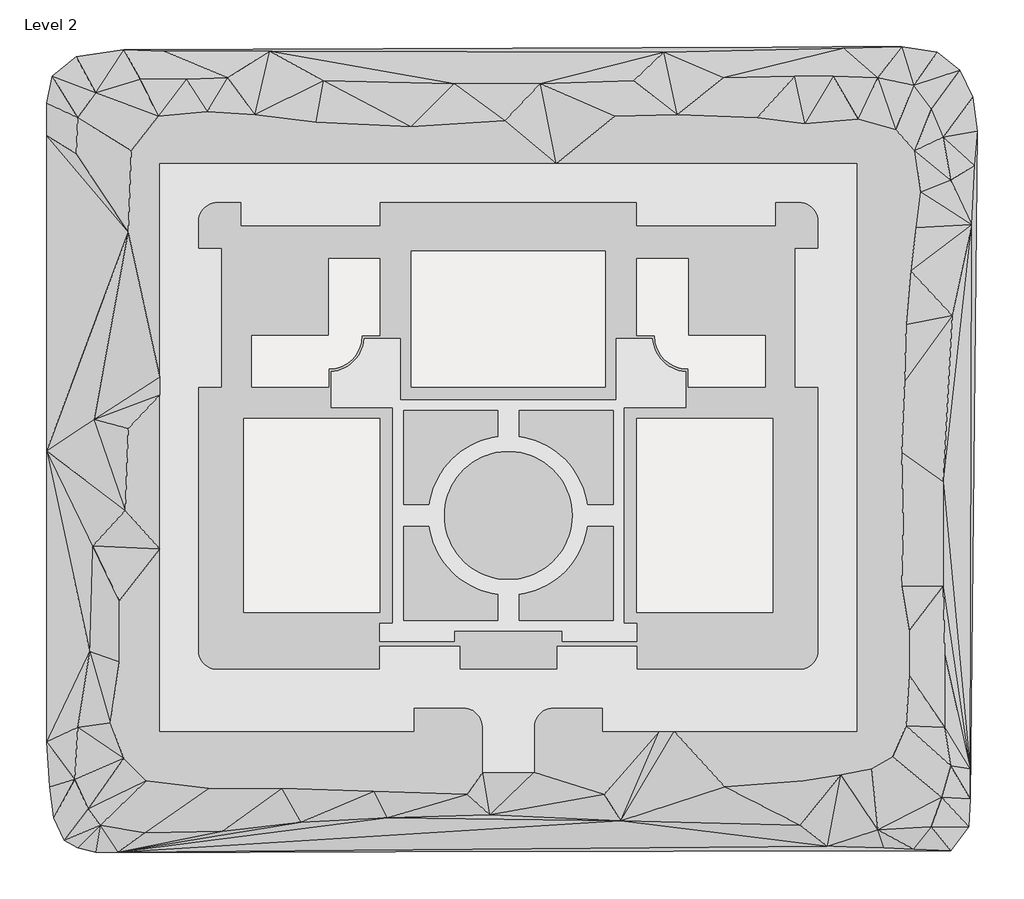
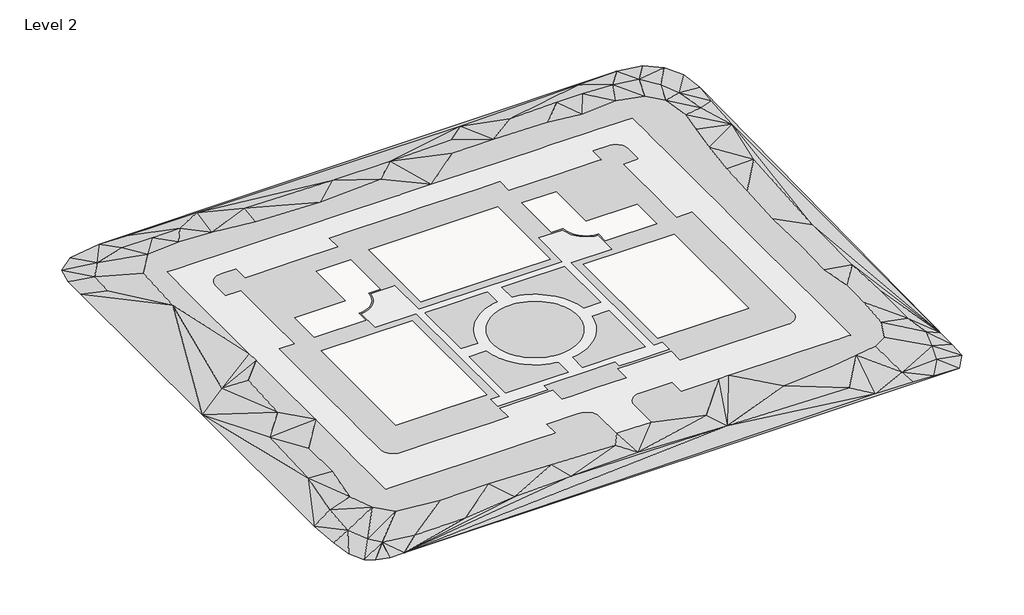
# One storey, part 2 of 2: 1 proxy.
"""IFC4 building model written with IfcOpenShell, lengths in millimetres."""

from ifc_helpers import new_model, si_unit, origin, place, context, project, spatial, triangles, element, save

model = new_model("IFC4")

# Units and contexts
model_context = context("Model", 3, world=origin())
ifc_project = project(units=[si_unit("LENGTHUNIT", "METRE", prefix="MILLI")], contexts=[model_context])

# Site, building, storey
site = spatial("IfcSite", under=ifc_project)
building = spatial("IfcBuilding", under=site)
storey = spatial("IfcBuildingStorey", under=building, Name="Level 2", Elevation=3047.9999999)

# Proxy
placement = place(None, origin())
element("IfcBuildingElementProxy", 1, Name="Building Element Proxy", at=placement, inside=storey, context=model_context, shape_type="Tessellation", body=[
    triangles([(-199970.6219238, -770.6450392, 0.0), (-199970.6219238, -75600.9481934, 0.0), (-199970.6219238, -144783.6834961, 0.0), (-199264.6743164, -155372.8790039, 0.0), (-198205.762207, -162785.3195801, 0.0), (-195734.9362793, -168079.917334, 0.0), (-192558.1813477, -169844.7770508, 0.0), (-188322.5143066, -170903.6891602, 0.0), (-183027.9165527, -170903.6891602, 0.0), (14637.0472687, -170550.7246582, 0.0), (18872.7247742, -164903.1624023, 0.0), (19225.6974152, -158196.6694336, 0.0), (20990.5629456, 288.2743554, 0.0), (19931.6438599, 8406.6566345, 0.0), (16754.8854401, 14760.1734741, 0.0), (11460.2888489, 18995.8509796, 0.0), (2988.9332565, 20407.7427063, 0.0), (-181616.0213379, 19701.7974243, 0.0), (-192911.1644531, 17936.9307312, 0.0), (-198558.726709, 13348.2805847, 0.0), (-199970.6219238, 6994.7637451, 0.0), (-96458.3541504, -141259.5265137, 3048.0), (-96504.8908447, -140608.8592529, 3048.0), (-96643.5521484, -139971.4376953, 3048.0), (-96871.5196289, -139360.2470947, 3048.0), (-97184.1424072, -138787.7145996, 3048.0), (-97575.0673828, -138265.4953125, 3048.0), (-98036.332251, -137804.2304443, 3048.0), (-98558.5515381, -137413.3147705, 3048.0), (-98978.0329102, -137184.2496826, 3048.0), (-99131.0840332, -137100.6826904, 3048.0), (-99742.2746338, -136872.7245117, 3048.0), (-100379.6961914, -136734.0539063, 3048.0), (-101030.3541504, -136687.5265137, 3048.0), (-101809.9809814, -136687.5265137, 3048.0), (-112765.1541504, -136687.5265137, 3048.0), (-112765.1541504, -142173.9265137, 3048.0), (-113948.1331055, -142173.9265137, 3048.0), (-118098.4844238, -142173.9265137, 3048.0), (-134914.7603027, -142173.9265137, 3048.0), (-141364.1619873, -142173.9265137, 3048.0), (-155924.3616211, -142173.9265137, 3048.0), (-161579.2164551, -142173.9265137, 3048.0), (-171062.6189941, -142173.9265137, 3048.0), (-173115.5541504, -142173.9265137, 3048.0), (-173115.5541504, -139265.5924072, 3048.0), (-173115.5541504, -133177.6942383, 3048.0), (-173115.5541504, -122301.5302002, 3048.0), (-173115.5541504, -118406.8004883, 3048.0), (-173115.5541504, -98940.6863525, 3048.0), (-173115.5541504, -96485.831543, 3048.0), (-173115.5541504, -78335.3859375, 3048.0), (-173115.5541504, -62355.6543457, 3048.0), (-173115.5541504, -58140.023291, 3048.0), (-173115.5541504, -19343.470459, 3048.0), (-173115.5541504, -16797.6432953, 3048.0), (-173115.5541504, -12340.9792786, 3048.0), (-173115.5541504, -7452.3218628, 3048.0), (-169916.8098633, -7452.3218628, 3048.0), (-163060.4655762, -7452.3218628, 3048.0), (-152868.4644287, -7452.3218628, 3048.0), (-142112.3953857, -7452.3218628, 3048.0), (-121728.1977539, -7452.3218628, 3048.0), (-112747.4808105, -7452.3218628, 3048.0), (-91818.4420166, -7452.3218628, 3048.0), (-90362.3541504, -7452.3218628, 3048.0), (-89744.5965088, -7452.3218628, 3048.0), (-79028.6831543, -7452.3218628, 3048.0), (-55510.2210205, -7452.3218628, 3048.0), (-52788.1732178, -7452.3218628, 3048.0), (-40375.0099731, -7452.3218628, 3048.0), (-37615.0575073, -7452.3218628, 3048.0), (-23395.2487244, -7452.3218628, 3048.0), (-20332.1054626, -7452.3218628, 3048.0), (-13137.2725342, -7452.3218628, 3048.0), (-9769.8966797, -7452.3218628, 3048.0), (-7609.1582199, -7452.3218628, 3048.0), (-7609.1582199, -9469.011557, 3048.0), (-7609.1582199, -15160.5374084, 3048.0), (-7609.1582199, -20175.2708496, 3048.0), (-7609.1582199, -29394.9894836, 3048.0), (-7609.1582199, -34925.2565735, 3048.0), (-7609.1582199, -45786.2285156, 3048.0), (-7609.1582199, -48692.6557617, 3048.0), (-7609.1582199, -63543.7213623, 3048.0), (-7609.1582199, -67102.3320557, 3048.0), (-7609.1582199, -88141.7269043, 3048.0), (-7609.1582199, -103111.0178467, 3048.0), (-7609.1582199, -109311.1696289, 3048.0), (-7609.1582199, -119744.5513916, 3048.0), (-7609.1582199, -128757.108252, 3048.0), (-7609.1582199, -135897.4445068, 3048.0), (-7609.1582199, -141262.8472412, 3048.0), (-7609.1582199, -142173.9265137, 3048.0), (-8520.228772, -142173.9265137, 3048.0), (-12021.3371613, -142173.9265137, 3048.0), (-14368.7717834, -142173.9265137, 3048.0), (-27380.2333923, -142173.9265137, 3048.0), (-30015.5818359, -142173.9265137, 3048.0), (-50988.4086548, -142173.9265137, 3048.0), (-54593.6723145, -142173.9265137, 3048.0), (-67959.5588013, -142173.9265137, 3048.0), (-67959.5588013, -136687.5265137, 3048.0), (-70630.3399658, -136687.5265137, 3048.0), (-79694.3541504, -136687.5265137, 3048.0), (-80345.0214111, -136734.0539063, 3048.0), (-80982.4429688, -136872.7245117, 3048.0), (-81593.6335693, -137100.6826904, 3048.0), (-82166.1660645, -137413.3147705, 3048.0), (-82688.3853516, -137804.2304443, 3048.0), (-83149.640918, -138265.4953125, 3048.0), (-83540.5658936, -138787.7145996, 3048.0), (-83853.1979736, -139360.2470947, 3048.0), (-84081.1561523, -139971.4376953, 3048.0), (-84219.8174561, -140608.8592529, 3048.0), (-84266.3541504, -141259.5265137, 3048.0), (-84266.3541504, -151927.5265137, 3048.0), (-90362.3541504, -151927.5265137, 3048.0), (-96458.3541504, -151927.5265137, 3048.0), (-153151.1541504, -67955.1218628, 3048.0), (-153151.1541504, -99875.92229, 3048.0), (-153151.1541504, -113064.9684082, 3048.0), (-153151.1541504, -113979.9265137, 3048.0), (-152049.379541, -113979.9265137, 3048.0), (-140079.1613525, -113979.9265137, 3048.0), (-120842.3541504, -113979.9265137, 3048.0), (-120842.3541504, -67955.1218628, 3048.0), (-67349.9588013, -28178.7218628, 3048.0), (-86679.0999023, -28178.7218628, 3048.0), (-92962.2791748, -28178.7218628, 3048.0), (-110993.3460205, -28178.7218628, 3048.0), (-113374.7541504, -28178.7218628, 3048.0), (-113374.7541504, -60487.5218628, 3048.0), (-108258.9733887, -60487.5218628, 3048.0), (-94745.3238281, -60487.5218628, 3048.0), (-81900.5357666, -60487.5218628, 3048.0), (-67349.9588013, -60487.5218628, 3048.0), (-27573.5588013, -113979.9265137, 3048.0), (-27573.5588013, -111100.790625, 3048.0), (-27573.5588013, -67955.1218628, 3048.0), (-59882.3588013, -67955.1218628, 3048.0), (-59882.3588013, -113979.9265137, 3048.0), (-30077.1524963, -113979.9265137, 3048.0), (-120842.3541504, -30007.5218628, 3048.0), (-133034.3541504, -30007.5218628, 3048.0), (-133034.3541504, -48295.5218628, 3048.0), (-151322.3541504, -48295.5218628, 3048.0), (-151322.3541504, -60487.5218628, 3048.0), (-133034.3541504, -60487.5218628, 3048.0), (-133034.3541504, -56220.3218628, 3048.0), (-132147.0594727, -56170.4923462, 3048.0), (-131270.9269043, -56021.631665, 3048.0), (-130416.9604248, -55775.6094727, 3048.0), (-129595.9128662, -55435.5186035, 3048.0), (-128818.1091797, -55005.6425171, 3048.0), (-128093.3255127, -54491.3808838, 3048.0), (-127430.6775879, -53899.2030762, 3048.0), (-126838.4997803, -53236.5551514, 3048.0), (-126324.2334961, -52511.7714844, 3048.0), (-125894.3620605, -51733.963147, 3048.0), (-125554.2711914, -50912.9155884, 3048.0), (-125308.248999, -50058.9537598, 3048.0), (-125159.383667, -49182.8165405, 3048.0), (-125109.5541504, -48295.5218628, 3048.0), (-120842.3541504, -48295.5218628, 3048.0), (-59882.3588013, -30007.5218628, 3048.0), (-59882.3588013, -48295.5218628, 3048.0), (-55615.1588013, -48295.5218628, 3048.0), (-55565.3292847, -49182.8165405, 3048.0), (-55416.4686035, -50058.9537598, 3048.0), (-55170.4464111, -50912.9155884, 3048.0), (-54830.355542, -51733.963147, 3048.0), (-54400.4794556, -52511.7714844, 3048.0), (-53886.2178223, -53236.5551514, 3048.0), (-53294.0400146, -53899.2030762, 3048.0), (-52631.3920898, -54491.3808838, 3048.0), (-51906.603772, -55005.6425171, 3048.0), (-51128.8000854, -55435.5186035, 3048.0), (-50307.7525269, -55775.6094727, 3048.0), (-49453.7906982, -56021.631665, 3048.0), (-48577.653479, -56170.4923462, 3048.0), (-47690.3588013, -56220.3218628, 3048.0), (-47690.3588013, -60487.5218628, 3048.0), (-29402.3588013, -60487.5218628, 3048.0), (-29402.3588013, -48900.5221436, 3048.0), (-29402.3588013, -48295.5218628, 3048.0), (-30126.7308655, -48295.5218628, 3048.0), (-47690.3588013, -48295.5218628, 3048.0), (-47690.3588013, -33626.2753967, 3048.0), (-47690.3588013, -30007.5218628, 3048.0), (-52023.1268921, -30007.5218628, 3048.0), (-120842.3541504, -16596.3218628, 3048.0), (-120842.3541504, -22082.7218628, 3048.0), (-135421.6781982, -22082.7218628, 3048.0), (-151061.086377, -22082.7218628, 3048.0), (-153760.7541504, -22082.7218628, 3048.0), (-153760.7541504, -16596.3218628, 3048.0), (-159399.5541504, -16596.3218628, 3048.0), (-160050.2307129, -16642.8585571, 3048.0), (-160687.6429688, -16781.5198608, 3048.0), (-161298.8428711, -17009.4838531, 3048.0), (-161871.3660645, -17322.1112823, 3048.0), (-162393.5853516, -17713.0350952, 3048.0), (-162854.840918, -18174.2988007, 3048.0), (-163245.7751953, -18696.5122742, 3048.0), (-163558.3886719, -19269.0447693, 3048.0), (-163786.3561523, -19880.2400208, 3048.0), (-163925.0267578, -20517.6592529, 3048.0), (-163971.5541504, -21168.3218628, 3048.0), (-163971.5541504, -27569.1218628, 3048.0), (-158485.1541504, -27569.1218628, 3048.0), (-158485.1541504, -34220.483313, 3048.0), (-158485.1541504, -46724.2270752, 3048.0), (-158485.1541504, -60487.5218628, 3048.0), (-163971.5541504, -60487.5218628, 3048.0), (-163971.5541504, -88201.2767578, 3048.0), (-163971.5541504, -104079.330835, 3048.0), (-163971.5541504, -109289.2825928, 3048.0), (-163971.5541504, -122971.5265137, 3048.0), (-163925.0267578, -123622.1844727, 3048.0), (-163786.3561523, -124259.6060303, 3048.0), (-163558.3886719, -124870.7966309, 3048.0), (-163245.7751953, -125443.329126, 3048.0), (-162854.840918, -125965.5484131, 3048.0), (-162393.5853516, -126426.8132813, 3048.0), (-161871.3660645, -126817.7289551, 3048.0), (-161298.8428711, -127130.3610352, 3048.0), (-160687.6429688, -127358.3192139, 3048.0), (-160050.2307129, -127496.9898193, 3048.0), (-159399.5541504, -127543.5265137, 3048.0), (-147842.1479736, -127543.5265137, 3048.0), (-135716.2462646, -127543.5265137, 3048.0), (-127508.0124023, -127543.5265137, 3048.0), (-120842.3541504, -127543.5265137, 3048.0), (-120842.3541504, -122057.1265137, 3048.0), (-103048.1844727, -122057.1265137, 3048.0), (-101944.7541504, -122057.1265137, 3048.0), (-101944.7541504, -127543.5265137, 3048.0), (-98445.9909668, -127543.5265137, 3048.0), (-90362.3541504, -127543.5265137, 3048.0), (-78779.9541504, -127543.5265137, 3048.0), (-78779.9541504, -122057.1265137, 3048.0), (-72794.2171875, -122057.1265137, 3048.0), (-59882.3588013, -122057.1265137, 3048.0), (-59882.3588013, -127543.5265137, 3048.0), (-41871.5883911, -127543.5265137, 3048.0), (-34741.3910522, -127543.5265137, 3048.0), (-21325.1588013, -127543.5265137, 3048.0), (-20674.493866, -127496.9898193, 3048.0), (-20037.0769592, -127358.3192139, 3048.0), (-19872.0754028, -127296.7787842, 3048.0), (-19425.880545, -127130.3610352, 3048.0), (-18853.3480499, -126817.7289551, 3048.0), (-18331.1345764, -126426.8132813, 3048.0), (-17869.870871, -125965.5484131, 3048.0), (-17478.9470581, -125443.329126, 3048.0), (-17166.3207916, -124870.7966309, 3048.0), (-16938.3556366, -124259.6060303, 3048.0), (-16799.6943329, -123622.1844727, 3048.0), (-16753.1576385, -122971.5265137, 3048.0), (-16753.1576385, -122722.3696289, 3048.0), (-16753.1576385, -111345.1664063, 3048.0), (-16753.1576385, -98657.3269043, 3048.0), (-16753.1576385, -60487.5218628, 3048.0), (-22239.5588013, -60487.5218628, 3048.0), (-22239.5588013, -54882.9383789, 3048.0), (-22239.5588013, -46411.753125, 3048.0), (-22239.5588013, -35337.7267456, 3048.0), (-22239.5588013, -28669.615155, 3048.0), (-22239.5588013, -27569.1218628, 3048.0), (-16753.1576385, -27569.1218628, 3048.0), (-16753.1576385, -26553.1513184, 3048.0), (-16753.1576385, -21168.3218628, 3048.0), (-16799.6943329, -20517.6592529, 3048.0), (-16938.3556366, -19880.2400208, 3048.0), (-17166.3207916, -19269.0447693, 3048.0), (-17478.9470581, -18696.5122742, 3048.0), (-17869.870871, -18174.2988007, 3048.0), (-18331.1345764, -17713.0350952, 3048.0), (-18853.3480499, -17322.1112823, 3048.0), (-19425.880545, -17009.4838531, 3048.0), (-20037.0769592, -16781.5198608, 3048.0), (-20674.493866, -16642.8585571, 3048.0), (-21325.1588013, -16596.3218628, 3048.0), (-26963.9588013, -16596.3218628, 3048.0), (-26963.9588013, -17204.3033569, 3048.0), (-26963.9588013, -22082.7218628, 3048.0), (-27869.6965393, -22082.7218628, 3048.0), (-36760.488739, -22082.7218628, 3048.0), (-43016.1185303, -22082.7218628, 3048.0), (-59882.3588013, -22082.7218628, 3048.0), (-59882.3588013, -16596.3218628, 3048.0), (-68080.4816528, -16596.3218628, 3048.0), (-88392.1767334, -16596.3218628, 3048.0), (-92323.0716797, -16596.3218628, 3048.0), (-111973.5931641, -16596.3218628, 3048.0), (-115965.5541504, -63535.5218628, 3048.0), (-108001.017041, -63535.5218628, 3048.0), (-94913.5368164, -63535.5218628, 3048.0), (-81449.735376, -63535.5218628, 3048.0), (-64759.1588013, -63535.5218628, 3048.0), (-64759.1588013, -48905.1218628, 3048.0), (-56202.9601318, -48905.1218628, 3048.0), (-56096.6642944, -49768.622644, 3048.0), (-55903.0063477, -50616.8173828, 3048.0), (-55624.0001221, -51440.8880127, 3048.0), (-55262.5431152, -52232.2676147, 3048.0), (-54822.3978882, -52982.7380859, 3048.0), (-54308.131604, -53684.4999023, 3048.0), (-53725.0881226, -54330.255835, 3048.0), (-53079.3368408, -54913.2946655, 3048.0), (-52377.5750244, -55427.5609497, 3048.0), (-51627.1045532, -55867.7061768, 3048.0), (-50835.7249512, -56229.1631836, 3048.0), (-50011.6543213, -56508.1694092, 3048.0), (-49163.4595825, -56701.827356, 3048.0), (-48299.9588013, -56808.1231934, 3048.0), (-48299.9588013, -65364.3218628, 3048.0), (-62930.3588013, -65364.3218628, 3048.0), (-62930.3588013, -116570.7265137, 3048.0), (-59882.3588013, -116570.7265137, 3048.0), (-59882.3588013, -120837.9265137, 3048.0), (-72974.5410645, -120837.9265137, 3048.0), (-77560.7588013, -120837.9265137, 3048.0), (-77560.7588013, -118399.5265137, 3048.0), (-90362.3541504, -118399.5265137, 3048.0), (-97941.352002, -118399.5265137, 3048.0), (-103163.9541504, -118399.5265137, 3048.0), (-103163.9541504, -120689.163501, 3048.0), (-103163.9541504, -120837.9265137, 3048.0), (-120842.3541504, -120837.9265137, 3048.0), (-120842.3541504, -116570.7265137, 3048.0), (-117794.3541504, -116570.7265137, 3048.0), (-117794.3541504, -65364.3218628, 3048.0), (-132424.7541504, -65364.3218628, 3048.0), (-132424.7541504, -56808.1231934, 3048.0), (-131561.2533691, -56701.827356, 3048.0), (-130713.0632813, -56508.1694092, 3048.0), (-129888.9926514, -56229.1631836, 3048.0), (-129097.6083984, -55867.7061768, 3048.0), (-128347.1425781, -55427.5609497, 3048.0), (-127645.3807617, -54913.2946655, 3048.0), (-126999.6248291, -54330.255835, 3048.0), (-126416.5813477, -53684.4999023, 3048.0), (-125902.3150635, -52982.7380859, 3048.0), (-125462.1744873, -52232.2676147, 3048.0), (-125100.7174805, -51440.8880127, 3048.0), (-124821.7112549, -50616.8173828, 3048.0), (-124628.057959, -49768.622644, 3048.0), (-124521.7574707, -48905.1218628, 3048.0), (-115965.5541504, -48905.1218628, 3048.0), (-92800.7541504, -65973.9218628, 3048.0), (-95048.1053467, -65973.9218628, 3048.0), (-107794.6482422, -65973.9218628, 3048.0), (-115355.9541504, -65973.9218628, 3048.0), (-115355.9541504, -88529.1265137, 3048.0), (-109101.9823975, -88529.1265137, 3048.0), (-108874.6474365, -87170.8838379, 3048.0), (-108549.0021973, -85832.807373, 3048.0), (-108126.7768066, -84522.0036621, 3048.0), (-107610.2129883, -83245.4211182, 3048.0), (-107002.0547607, -82009.8500244, 3048.0), (-106508.6988281, -81168.3851074, 3048.0), (-106305.529834, -80821.8574219, 3048.0), (-105524.3403076, -79687.7312988, 3048.0), (-104662.6254639, -78613.5177979, 3048.0), (-103724.9803711, -77604.900293, 3048.0), (-102716.3628662, -76667.2505493, 3048.0), (-101642.1493652, -75805.5403564, 3048.0), (-100508.0232422, -75024.3508301, 3048.0), (-99320.0213379, -74327.8259033, 3048.0), (-98084.4595459, -73719.6676758, 3048.0), (-96807.877002, -73203.1038574, 3048.0), (-95497.073291, -72780.8784668, 3048.0), (-95422.7708496, -72762.7958496, 3048.0), (-94158.9968262, -72455.2332275, 3048.0), (-92800.7541504, -72227.8982666, 3048.0), (-92800.7541504, -115961.1265137, 3048.0), (-92800.7541504, -109707.145459, 3048.0), (-94158.9968262, -109479.810498, 3048.0), (-95497.073291, -109154.1652588, 3048.0), (-96807.877002, -108731.9398682, 3048.0), (-97394.7156006, -108494.475293, 3048.0), (-98084.4595459, -108215.3760498, 3048.0), (-99320.0213379, -107607.2178223, 3048.0), (-100508.0232422, -106910.6928955, 3048.0), (-101642.1493652, -106129.5033691, 3048.0), (-102716.3628662, -105267.7978271, 3048.0), (-103724.9803711, -104330.1434326, 3048.0), (-104630.9436768, -103355.6168701, 3048.0), (-104662.6254639, -103321.5259277, 3048.0), (-105524.3403076, -102247.3124268, 3048.0), (-106305.529834, -101113.1863037, 3048.0), (-107002.0547607, -99925.1937012, 3048.0), (-107610.2129883, -98689.6226074, 3048.0), (-108126.7768066, -97413.0400635, 3048.0), (-108549.0021973, -96102.2363525, 3048.0), (-108874.6474365, -94764.1598877, 3048.0), (-109101.9823975, -93405.9265137, 3048.0), (-115355.9541504, -93405.9265137, 3048.0), (-115355.9541504, -115961.1265137, 3048.0), (-103564.1064697, -115961.1265137, 3048.0), (-97806.7834717, -115961.1265137, 3048.0), (-105602.3541504, -90967.5265137, 3048.0), (-105552.9432129, -92193.8330566, 3048.0), (-105405.0080566, -93412.1865967, 3048.0), (-105159.5067627, -94614.6899414, 3048.0), (-104818.0578369, -95793.538916, 3048.0), (-104382.8471924, -96941.0967773, 3048.0), (-103856.7118652, -98049.9035156, 3048.0), (-103243.0562988, -99112.7781738, 3048.0), (-102545.8616455, -100122.8374512, 3048.0), (-101769.6578613, -101073.5143066, 3048.0), (-100919.4771973, -101958.6509766, 3048.0), (-100000.8262939, -102772.4989746, 3048.0), (-99019.6675781, -103509.7935059, 3048.0), (-97982.3541504, -104165.7534668, 3048.0), (-97179.0915527, -104587.3370361, 3048.0), (-96895.6297852, -104736.1093506, 3048.0), (-95766.5359131, -105217.1683594, 3048.0), (-94602.3930176, -105605.8144043, 3048.0), (-93410.754126, -105899.5360107, 3048.0), (-92199.3396973, -106096.4077148, 3048.0), (-90976.0097168, -106195.1644775, 3048.0), (-89748.7078857, -106195.1644775, 3048.0), (-88525.3779053, -106096.4077148, 3048.0), (-87313.9634766, -105899.5360107, 3048.0), (-86122.324585, -105605.8144043, 3048.0), (-84958.1816895, -105217.1683594, 3048.0), (-83829.0878174, -104736.1093506, 3048.0), (-82742.3541504, -104165.7534668, 3048.0), (-81705.0500244, -103509.7935059, 3048.0), (-80723.8913086, -102772.4989746, 3048.0), (-79805.2404053, -101958.6509766, 3048.0), (-78955.0504395, -101073.5143066, 3048.0), (-78178.8466553, -100122.8374512, 3048.0), (-77481.6613037, -99112.7781738, 3048.0), (-76868.0103882, -98049.9035156, 3048.0), (-76469.2486816, -97209.5362061, 3048.0), (-76341.8704102, -96941.0967773, 3048.0), (-75906.6644165, -95793.538916, 3048.0), (-75565.206189, -94614.6899414, 3048.0), (-75319.7141968, -93412.1865967, 3048.0), (-75171.7743896, -92193.8330566, 3048.0), (-75122.3588013, -90967.5265137, 3048.0), (-75171.7743896, -89741.2106689, 3048.0), (-75319.7141968, -88522.8571289, 3048.0), (-75565.206189, -87320.3537842, 3048.0), (-75906.6644165, -86141.5048096, 3048.0), (-76341.8704102, -84993.9469482, 3048.0), (-76868.0103882, -83885.14021, 3048.0), (-77481.6613037, -82822.2655518, 3048.0), (-78178.8466553, -81812.2062744, 3048.0), (-78872.1438721, -80963.076709, 3048.0), (-78955.0504395, -80861.5294189, 3048.0), (-79805.2404053, -79976.392749, 3048.0), (-80723.8913086, -79162.544751, 3048.0), (-81705.0500244, -78425.2502197, 3048.0), (-82742.3541504, -77769.2949097, 3048.0), (-83829.0878174, -77198.9390259, 3048.0), (-84958.1816895, -76717.8753662, 3048.0), (-86122.324585, -76329.2246704, 3048.0), (-87313.9634766, -76035.5123657, 3048.0), (-88525.3779053, -75838.6406616, 3048.0), (-89748.7078857, -75739.879248, 3048.0), (-90976.0097168, -75739.879248, 3048.0), (-92199.3396973, -75838.6406616, 3048.0), (-93410.754126, -76035.5123657, 3048.0), (-94602.3930176, -76329.2246704, 3048.0), (-95638.683252, -76675.1895996, 3048.0), (-95766.5359131, -76717.8753662, 3048.0), (-96895.6297852, -77198.9390259, 3048.0), (-97982.3541504, -77769.2949097, 3048.0), (-99019.6675781, -78425.2502197, 3048.0), (-100000.8262939, -79162.544751, 3048.0), (-100919.4771973, -79976.392749, 3048.0), (-101769.6578613, -80861.5294189, 3048.0), (-102545.8616455, -81812.2062744, 3048.0), (-103243.0562988, -82822.2655518, 3048.0), (-103856.7118652, -83885.14021, 3048.0), (-104382.8471924, -84993.9469482, 3048.0), (-104818.0578369, -86141.5048096, 3048.0), (-105159.5067627, -87320.3537842, 3048.0), (-105405.0080566, -88522.8571289, 3048.0), (-105552.9432129, -89741.2106689, 3048.0), (-87923.9541504, -65973.9218628, 3048.0), (-87923.9541504, -72227.8982666, 3048.0), (-86565.7207764, -72455.2332275, 3048.0), (-85227.6443115, -72780.8784668, 3048.0), (-83916.8406006, -73203.1038574, 3048.0), (-82640.2580566, -73719.6676758, 3048.0), (-81404.6869629, -74327.8259033, 3048.0), (-80216.6943604, -75024.3508301, 3048.0), (-79697.6190674, -75381.8917969, 3048.0), (-79082.5682373, -75805.5403564, 3048.0), (-78008.3500854, -76667.2505493, 3048.0), (-76999.7372314, -77604.900293, 3048.0), (-76062.0874878, -78613.5177979, 3048.0), (-75200.3772949, -79687.7312988, 3048.0), (-74419.1877686, -80821.8574219, 3048.0), (-73722.6628418, -82009.8500244, 3048.0), (-73114.5046143, -83245.4211182, 3048.0), (-72597.9407959, -84522.0036621, 3048.0), (-72175.7154053, -85832.807373, 3048.0), (-71850.070166, -87170.8838379, 3048.0), (-71622.7352051, -88529.1265137, 3048.0), (-65368.7588013, -88529.1265137, 3048.0), (-65368.7588013, -65973.9218628, 3048.0), (-81089.0876221, -65973.9218628, 3048.0), (-87923.9541504, -115961.1265137, 3048.0), (-73695.8365723, -115961.1265137, 3048.0), (-65368.7588013, -115961.1265137, 3048.0), (-65368.7588013, -93405.9265137, 3048.0), (-71622.7352051, -93405.9265137, 3048.0), (-71850.070166, -94764.1598877, 3048.0), (-72175.7154053, -96102.2363525, 3048.0), (-72597.9407959, -97413.0400635, 3048.0), (-73114.5046143, -98689.6226074, 3048.0), (-73722.6628418, -99925.1937012, 3048.0), (-74419.1877686, -101113.1863037, 3048.0), (-75200.3772949, -102247.3124268, 3048.0), (-75642.6107666, -102798.599707, 3048.0), (-76062.0874878, -103321.5259277, 3048.0), (-76999.7372314, -104330.1434326, 3048.0), (-78008.3500854, -105267.7978271, 3048.0), (-79082.5682373, -106129.5033691, 3048.0), (-80216.6943604, -106910.6928955, 3048.0), (-81404.6869629, -107607.2178223, 3048.0), (-82640.2580566, -108215.3760498, 3048.0), (-83916.8406006, -108731.9398682, 3048.0), (-85227.6443115, -109154.1652588, 3048.0), (-86565.7207764, -109479.810498, 3048.0), (-87923.9541504, -109707.145459, 3048.0), (-172085.7379395, 19348.8236206, 0.0), (-147024.6536865, 19348.8236206, 0.0), (-53486.7677856, 18995.8509796, 0.0), (-10777.018927, 20054.771228, 0.0), (20284.6176636, -7830.1081055, 0.0), (19578.6700562, -21949.0323486, 0.0), (19225.6974152, -151137.2026611, 0.0), (5812.718454, -170197.7601563, 0.0), (-1246.744249, -169844.7770508, 0.0), (-14659.7237915, -169491.8125488, 0.0), (-192911.1644531, -5006.322908, 1524.0), (-192558.1813477, 3465.0326843, 1524.0), (-188322.5143066, 9465.5757202, 1524.0), (-177733.3187988, 12642.33414, 1524.0), (-166791.1401855, 12642.33414, 1524.0), (-156907.8922852, 12995.306781, 1524.0), (-134317.6153564, 12289.361499, 1524.0), (-103255.9857422, 11583.4150543, 1524.0), (-82783.542334, 11583.4150543, 1524.0), (-60546.2299072, 12289.361499, 1524.0), (-39367.8435425, 12995.306781, 1524.0), (-22425.1335205, 13348.2805847, 1524.0), (-13247.8309021, 13348.2805847, 1524.0), (-2658.6368477, 12995.306781, 1524.0), (5812.718454, 11230.4412506, 1524.0), (10048.3959595, 5582.8714371, 1524.0), (12872.1817383, -1123.6181889, 1524.0), (14637.0472687, -11359.8391663, 1524.0), (14990.0199097, -43480.3925171, 1524.0), (12872.1817383, -83013.3887695, 1524.0), (12872.1817383, -107721.5085205, 1524.0), (13225.1543793, -123958.2662842, 1524.0), (13225.1543793, -141253.9547607, 1524.0), (14637.0472687, -150431.2550537, 1524.0), (12519.2079346, -157843.6863281, 1524.0), (10048.3959595, -164903.1624023, 1524.0), (-2658.6368477, -165609.0914062, 1524.0), (-21013.2406311, -164550.1792969, 1524.0), (-63722.9894897, -163491.2671875, 1524.0), (-94784.6237549, -162079.3719727, 1524.0), (-119139.7697021, -162785.3195801, 1524.0), (-139612.2131104, -163844.2316895, 1524.0), (-158319.7875, -165962.0745117, 1524.0), (-176674.3880859, -166315.0390137, 1524.0), (-187263.5835937, -164550.1792969, 1524.0), (-190087.3740234, -160667.4767578, 1524.0), (-193264.1289551, -153608.0099854, 1524.0), (-192558.1813477, -141253.9547607, 1524.0), (-189734.390918, -123252.3279785, 1524.0), (-189028.4619141, -98191.2344238, 1524.0), (-188675.4788086, -68188.5122681, 1524.0), (-180557.090625, -23713.8990417, 3048.0), (-179851.1430176, -4300.3764633, 3048.0), (-173497.6331543, 3818.005616, 3048.0), (-161849.5255371, 4876.9249924, 3048.0), (-150554.3824219, 4170.9788383, 3048.0), (-136082.484375, 2406.1131626, 3048.0), (-113492.1981445, 1347.1937862, 3048.0), (-91254.8950195, 2759.0862396, 3048.0), (-65134.8800537, 3818.005616, 3048.0), (-50310.0082031, 4170.9788383, 3048.0), (-31249.4600098, 3465.0326843, 3048.0), (-19954.3215454, 2053.1400856, 3048.0), (-7247.2878662, 3112.059462, 3048.0), (1577.0408031, 641.2474869, 3048.0), (6165.6916763, -4300.3764633, 3048.0), (7577.5839844, -14183.6237823, 3048.0), (6518.6648987, -22654.9799561, 3048.0), (5106.7720093, -32891.2016602, 3048.0), (4047.8529236, -45598.2353394, 3048.0), (3694.8797012, -59011.2119751, 3048.0), (2988.9332565, -75953.9219971, 3048.0), (3341.9064789, -93249.6104736, 3048.0), (2988.9332565, -107721.5085205, 3048.0), (4753.7990776, -118310.7040283, 3048.0), (4753.7990776, -128899.8902344, 3048.0), (4047.8529236, -140900.980957, 3048.0), (871.0945765, -148313.4122314, 3048.0), (-4070.5294464, -151137.2026611, 3048.0), (-11482.9653717, -152549.097876, 3048.0), (-20307.2930237, -153960.9837891, 3048.0), (-39014.8697388, -155372.8790039, 3048.0), (-67605.6920288, -157137.7387207, 3048.0), (-100079.2215088, -157137.7387207, 3048.0), (-122316.5339355, -156431.7911133, 3048.0), (-144200.8632568, -155725.8528076, 3048.0), (-161496.5424316, -155725.8528076, 3048.0), (-176321.423584, -153960.9837891, 3048.0), (-181616.0213379, -148666.3860352, 3048.0), (-184792.7762695, -140195.0333496, 3048.0), (-182674.9334473, -125723.1353027, 3048.0), (-182674.9334473, -111251.2372559, 3048.0), (-181263.0382324, -89719.8724365, 3048.0), (-180557.090625, -70306.3550903, 3048.0)], [[5, 6, 579], [5, 580, 4], [578, 6, 7], [8, 9, 578], [621, 579, 578], [579, 6, 578], [577, 578, 9], [580, 5, 579], [9, 576, 577], [578, 7, 8], [577, 621, 578], [580, 622, 581], [580, 579, 622], [580, 581, 3], [581, 622, 623], [582, 581, 623], [3, 581, 582], [622, 45, 623], [580, 3, 4], [621, 44, 45], [620, 44, 621], [46, 47, 623], [623, 45, 46], [622, 621, 45], [579, 621, 622], [47, 624, 623], [621, 577, 620], [576, 575, 619], [576, 9, 575], [42, 620, 619], [619, 620, 576], [618, 40, 619], [41, 619, 40], [619, 575, 618], [576, 620, 577], [37, 618, 617], [574, 618, 575], [38, 39, 618], [37, 38, 618], [618, 574, 617], [618, 39, 40], [9, 574, 575], [43, 620, 42], [228, 229, 230], [231, 123, 230], [125, 232, 233], [231, 232, 125], [619, 41, 42], [235, 233, 234], [620, 43, 44], [574, 572, 573], [624, 625, 582], [221, 230, 220], [624, 582, 623], [225, 230, 224], [47, 48, 624], [223, 224, 230], [223, 230, 222], [230, 221, 222], [218, 219, 123], [625, 50, 583], [625, 49, 50], [50, 626, 583], [626, 50, 51], [583, 626, 2], [625, 583, 582], [49, 625, 624], [122, 217, 218], [121, 216, 217], [624, 48, 49], [51, 52, 626], [225, 226, 230], [3, 582, 2], [228, 230, 227], [219, 220, 230], [126, 125, 332], [356, 361, 362], [231, 124, 123], [231, 125, 124], [235, 330, 331], [332, 125, 233], [393, 394, 401], [333, 126, 332], [235, 236, 330], [233, 331, 332], [235, 331, 233], [219, 230, 123], [217, 122, 121], [333, 334, 126], [216, 121, 120], [218, 123, 122], [398, 399, 400], [357, 358, 356], [400, 397, 398], [394, 395, 400], [230, 226, 227], [359, 356, 358], [36, 37, 35], [2, 582, 583], [35, 22, 34], [22, 30, 34], [33, 34, 30], [30, 32, 33], [31, 32, 30], [237, 239, 327], [29, 30, 28], [119, 22, 37], [329, 330, 237], [329, 327, 328], [384, 402, 403], [237, 330, 236], [389, 401, 402], [238, 239, 237], [386, 402, 385], [385, 402, 384], [327, 329, 237], [402, 386, 387], [24, 25, 30], [30, 26, 27], [26, 30, 25], [27, 28, 30], [573, 118, 119], [118, 573, 117], [30, 23, 24], [22, 23, 30], [573, 119, 617], [37, 22, 35], [381, 403, 380], [382, 383, 403], [381, 382, 403], [403, 383, 384], [380, 378, 379], [378, 380, 403], [326, 327, 240], [239, 240, 327], [242, 326, 240], [617, 574, 573], [397, 400, 396], [396, 400, 395], [391, 401, 390], [393, 401, 392], [407, 408, 418], [392, 401, 391], [401, 394, 400], [484, 485, 418], [418, 483, 484], [404, 418, 485], [418, 405, 406], [483, 470, 482], [481, 482, 470], [418, 406, 407], [418, 404, 405], [360, 356, 359], [387, 388, 402], [418, 419, 420], [418, 420, 421], [425, 418, 424], [424, 418, 423], [418, 422, 423], [418, 421, 422], [470, 483, 418], [410, 411, 418], [411, 412, 418], [413, 418, 412], [418, 416, 417], [415, 418, 414], [416, 418, 415], [418, 413, 414], [410, 418, 409], [408, 409, 418], [388, 389, 402], [401, 389, 390], [418, 439, 470], [37, 617, 119], [574, 9, 572], [627, 584, 626], [627, 626, 52], [584, 627, 53], [584, 2, 626], [52, 53, 627], [2, 584, 585], [120, 214, 215], [214, 120, 148], [214, 148, 147], [120, 335, 148], [584, 53, 54], [585, 54, 55], [211, 209, 210], [54, 585, 584], [195, 212, 145], [147, 212, 213], [211, 195, 196], [195, 211, 212], [209, 196, 198], [211, 196, 209], [145, 212, 147], [214, 147, 213], [2, 585, 1], [336, 149, 335], [335, 149, 148], [150, 336, 151], [336, 150, 149], [337, 151, 336], [337, 338, 152], [339, 153, 338], [338, 153, 152], [154, 339, 340], [337, 152, 151], [153, 339, 154], [195, 145, 194], [147, 146, 145], [155, 341, 156], [155, 154, 340], [156, 342, 157], [342, 156, 341], [157, 342, 343], [341, 155, 340], [145, 193, 194], [334, 335, 127], [216, 120, 215], [544, 585, 586], [544, 1, 585], [545, 544, 586], [544, 545, 1], [57, 585, 56], [585, 55, 56], [586, 58, 587], [58, 586, 57], [587, 59, 588], [586, 585, 57], [587, 58, 59], [21, 545, 20], [545, 21, 1], [20, 546, 19], [546, 20, 545], [19, 546, 18], [586, 546, 545], [547, 587, 548], [547, 18, 546], [547, 534, 18], [534, 547, 548], [534, 548, 549], [18, 534, 535], [548, 587, 588], [547, 546, 587], [586, 587, 546], [198, 205, 206], [204, 198, 203], [205, 198, 204], [206, 207, 198], [201, 202, 198], [200, 198, 199], [198, 200, 201], [202, 203, 198], [208, 198, 207], [549, 588, 589], [61, 588, 60], [589, 588, 61], [588, 549, 548], [60, 588, 59], [62, 590, 589], [63, 590, 62], [589, 550, 535], [550, 589, 590], [535, 550, 551], [589, 535, 549], [550, 590, 591], [62, 589, 61], [549, 535, 534], [209, 198, 208], [196, 197, 198], [18, 535, 17], [363, 355, 362], [355, 356, 362], [363, 364, 355], [478, 479, 470], [470, 477, 478], [477, 470, 476], [365, 366, 355], [355, 366, 354], [334, 127, 126], [366, 367, 354], [355, 364, 365], [369, 370, 354], [368, 369, 354], [367, 368, 354], [354, 370, 371], [480, 470, 479], [127, 335, 120], [473, 474, 470], [473, 470, 472], [471, 472, 470], [475, 470, 474], [469, 470, 468], [470, 467, 468], [466, 467, 470], [466, 470, 465], [475, 476, 470], [481, 470, 480], [372, 353, 354], [374, 375, 353], [373, 374, 353], [372, 373, 353], [353, 377, 352], [377, 353, 376], [376, 353, 375], [372, 354, 371], [470, 464, 465], [344, 158, 157], [158, 345, 159], [345, 158, 344], [159, 345, 346], [160, 346, 347], [346, 160, 159], [161, 347, 348], [347, 161, 160], [161, 348, 162], [351, 165, 350], [162, 349, 163], [162, 348, 349], [163, 350, 164], [350, 163, 349], [164, 350, 165], [145, 144, 193], [144, 165, 351], [192, 193, 296], [144, 132, 193], [157, 343, 344], [297, 133, 351], [351, 133, 132], [193, 132, 296], [132, 144, 351], [298, 299, 135], [298, 133, 297], [135, 134, 298], [298, 134, 133], [132, 131, 296], [295, 131, 130], [551, 591, 592], [63, 64, 591], [64, 65, 591], [591, 551, 550], [296, 131, 295], [65, 592, 591], [592, 66, 67], [66, 592, 65], [592, 67, 68], [551, 592, 552], [130, 294, 295], [63, 591, 590], [356, 360, 361], [535, 551, 536], [426, 418, 425], [109, 114, 115], [108, 115, 116], [113, 114, 110], [113, 111, 112], [111, 113, 110], [110, 114, 109], [105, 116, 102], [532, 533, 510], [428, 418, 427], [429, 418, 428], [530, 531, 510], [430, 439, 429], [418, 429, 439], [532, 510, 531], [431, 439, 430], [240, 241, 242], [109, 115, 108], [107, 108, 116], [116, 106, 107], [116, 105, 106], [243, 324, 242], [324, 243, 323], [242, 324, 325], [523, 511, 512], [326, 242, 325], [511, 529, 530], [526, 527, 511], [528, 511, 527], [511, 525, 526], [524, 525, 511], [523, 524, 511], [523, 512, 522], [529, 511, 528], [511, 530, 510], [102, 116, 117], [432, 439, 431], [439, 433, 434], [434, 435, 439], [436, 439, 435], [470, 439, 454], [438, 439, 437], [439, 436, 437], [441, 439, 440], [452, 453, 454], [454, 456, 457], [456, 454, 455], [470, 454, 462], [441, 442, 439], [449, 450, 454], [451, 452, 454], [454, 450, 451], [448, 449, 454], [454, 439, 448], [432, 433, 439], [445, 439, 444], [439, 443, 444], [445, 446, 439], [513, 517, 518], [513, 516, 517], [519, 512, 513], [520, 521, 512], [448, 439, 447], [508, 499, 500], [439, 446, 447], [504, 505, 507], [502, 503, 507], [504, 507, 503], [508, 501, 507], [439, 442, 443], [521, 522, 512], [323, 243, 322], [458, 454, 457], [572, 571, 615], [571, 572, 543], [615, 100, 572], [572, 101, 616], [571, 614, 615], [616, 117, 573], [571, 613, 614], [613, 571, 543], [97, 613, 96], [613, 97, 614], [96, 613, 95], [543, 570, 613], [615, 614, 99], [572, 9, 543], [97, 98, 614], [100, 101, 572], [104, 102, 103], [104, 105, 102], [101, 102, 616], [98, 99, 614], [143, 246, 247], [138, 247, 248], [100, 615, 99], [102, 117, 616], [542, 541, 570], [541, 542, 543], [568, 612, 570], [612, 95, 613], [569, 570, 541], [568, 570, 569], [541, 10, 569], [542, 570, 543], [11, 568, 569], [567, 568, 12], [12, 568, 11], [540, 12, 13], [612, 568, 611], [11, 569, 10], [543, 9, 541], [540, 567, 12], [95, 612, 94], [609, 91, 92], [93, 610, 92], [93, 94, 610], [611, 567, 610], [567, 611, 568], [610, 566, 609], [566, 610, 567], [609, 566, 565], [609, 92, 610], [567, 540, 566], [610, 94, 611], [612, 611, 94], [540, 565, 566], [612, 613, 570], [9, 10, 541], [90, 91, 609], [246, 322, 244], [244, 322, 243], [246, 321, 322], [320, 321, 142], [244, 245, 246], [249, 250, 251], [251, 252, 253], [251, 260, 248], [143, 142, 246], [249, 251, 248], [138, 248, 261], [515, 513, 514], [515, 516, 513], [141, 319, 320], [142, 321, 246], [247, 138, 143], [320, 142, 141], [139, 138, 262], [512, 519, 520], [253, 254, 251], [255, 256, 251], [257, 258, 251], [251, 256, 257], [258, 259, 251], [260, 261, 248], [608, 90, 609], [251, 259, 260], [261, 262, 138], [606, 87, 88], [140, 139, 263], [88, 89, 607], [263, 139, 262], [608, 564, 607], [564, 608, 565], [564, 606, 607], [606, 564, 563], [87, 606, 605], [607, 606, 88], [565, 540, 564], [608, 607, 89], [90, 608, 89], [540, 563, 564], [255, 251, 254], [565, 608, 609], [507, 505, 506], [540, 539, 563], [573, 572, 616], [606, 563, 605], [461, 462, 454], [463, 470, 462], [464, 470, 463], [459, 460, 454], [493, 494, 509], [460, 461, 454], [458, 459, 454], [486, 489, 509], [487, 488, 486], [486, 488, 489], [489, 490, 509], [491, 492, 509], [137, 136, 300], [299, 300, 136], [492, 493, 509], [490, 491, 509], [509, 494, 495], [299, 136, 135], [508, 496, 497], [496, 508, 495], [508, 509, 495], [497, 498, 508], [501, 508, 500], [508, 498, 499], [141, 318, 319], [502, 507, 501], [301, 137, 300], [518, 519, 513], [314, 315, 179], [313, 314, 178], [179, 315, 180], [178, 314, 179], [315, 316, 180], [317, 183, 182], [317, 181, 316], [181, 317, 182], [316, 181, 180], [318, 183, 317], [318, 184, 183], [137, 302, 128], [302, 303, 167], [167, 166, 302], [167, 303, 168], [302, 166, 128], [170, 304, 305], [169, 168, 303], [170, 169, 304], [169, 303, 304], [305, 306, 171], [291, 166, 191], [294, 129, 293], [294, 130, 129], [593, 552, 68], [552, 592, 68], [129, 128, 293], [291, 292, 293], [291, 128, 166], [553, 593, 594], [593, 68, 69], [593, 553, 552], [293, 128, 291], [552, 553, 536], [310, 175, 309], [175, 310, 311], [308, 309, 174], [174, 309, 175], [308, 174, 173], [313, 177, 312], [177, 313, 178], [312, 176, 311], [176, 312, 177], [311, 176, 175], [172, 171, 306], [172, 307, 173], [170, 305, 171], [306, 307, 172], [594, 536, 553], [69, 70, 594], [71, 594, 70], [536, 594, 554], [307, 308, 173], [594, 593, 69], [191, 290, 291], [302, 137, 301], [552, 536, 551], [185, 184, 266], [189, 188, 187], [266, 184, 265], [265, 140, 264], [185, 267, 186], [185, 266, 267], [187, 186, 268], [265, 184, 140], [318, 140, 184], [267, 268, 186], [190, 189, 289], [190, 289, 290], [288, 289, 269], [289, 189, 268], [270, 288, 269], [273, 284, 287], [287, 288, 270], [270, 273, 287], [269, 289, 268], [189, 187, 268], [276, 277, 274], [84, 85, 604], [603, 83, 84], [604, 85, 86], [140, 263, 264], [603, 84, 604], [605, 563, 604], [602, 82, 603], [82, 83, 603], [562, 603, 604], [602, 603, 562], [563, 562, 604], [604, 86, 605], [273, 270, 272], [276, 274, 275], [274, 277, 273], [270, 271, 272], [81, 602, 601], [79, 80, 601], [601, 80, 81], [539, 601, 602], [602, 562, 539], [82, 602, 81], [562, 563, 539], [140, 318, 141], [539, 600, 601], [284, 273, 283], [284, 286, 287], [286, 284, 285], [273, 282, 283], [278, 279, 273], [280, 281, 273], [273, 279, 280], [281, 282, 273], [273, 277, 278], [71, 72, 595], [595, 554, 594], [595, 72, 73], [595, 73, 596], [554, 595, 555], [594, 71, 595], [74, 75, 596], [555, 596, 556], [555, 595, 596], [597, 556, 596], [555, 556, 537], [596, 75, 597], [596, 73, 74], [554, 555, 537], [599, 78, 600], [597, 76, 77], [599, 77, 78], [599, 598, 77], [78, 79, 600], [561, 560, 599], [561, 600, 539], [560, 538, 13], [538, 560, 561], [13, 538, 539], [560, 13, 14], [561, 539, 538], [561, 599, 600], [559, 599, 560], [597, 598, 557], [598, 597, 77], [537, 557, 17], [537, 556, 557], [558, 17, 557], [17, 535, 537], [557, 598, 558], [556, 597, 557], [559, 14, 15], [559, 598, 599], [558, 15, 16], [15, 558, 559], [558, 16, 17], [559, 558, 598], [560, 14, 559], [597, 75, 76], [601, 600, 79], [554, 537, 536], [539, 540, 13], [191, 190, 290], [605, 86, 87], [537, 535, 536], [418, 426, 427]], closed=False),
])

save(model, "model.ifc")
